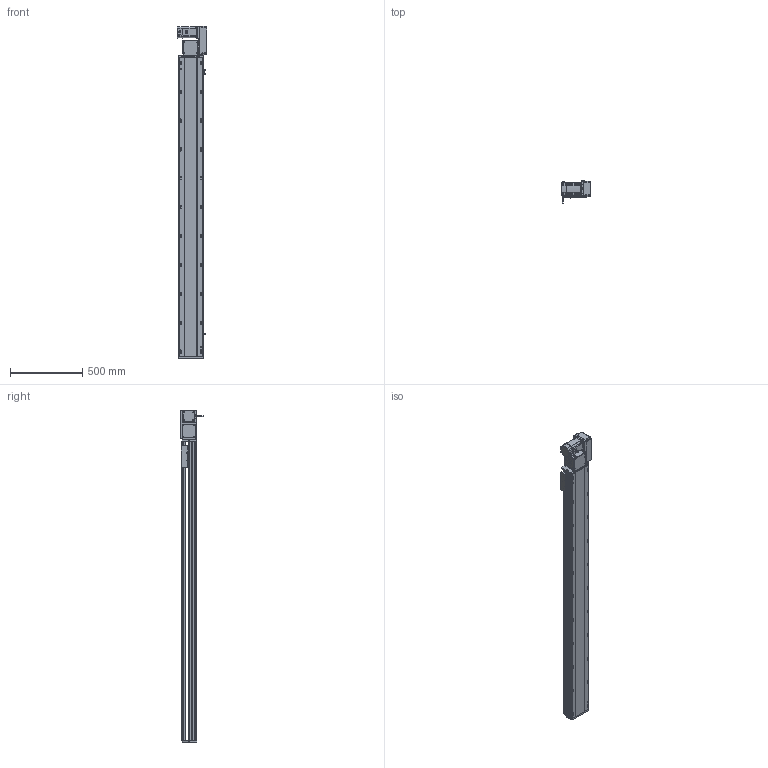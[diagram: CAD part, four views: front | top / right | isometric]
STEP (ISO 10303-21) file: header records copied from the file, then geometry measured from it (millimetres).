
FILE_DESCRIPTION (( 'STEP AP214' ), '1' );
FILE_NAME ('RTB17S-XX-1800-R-M75-C4.STEP', '2025-12-12T01:40:00', ( '' ), ( '' ), 'SwSTEP 2.0', 'SolidWorks 2018', '' );
FILE_SCHEMA (( 'AUTOMOTIVE_DESIGN' ));
Length unit declared in the file: millimetre
Products named in the file (15): RTB17S-L-007奻裔^RTB17S-XX-XX-R-M75-C4; EE672^RTB17S-XX-XX-R-M75-C4; 750W萇儂^RTB17S-XX-XX-R-M75-C4; RTB17S-賑釱^RTB17S-XX-XX-R-M75-C4; RTB17-R-011菁釱^RTB17S-XX-XX-R-M75-C4; RTH13-BL-012覜茼え俋离^RTB17S-賑釱_RTB17S-XX-XX-R-M75-C4; RTB17S-XX-1800-R-M75-C4; RTB17S-L-014-T20-P75--々湍釱^RTB17S-R-々湍釱蚾饜-750W_RTB17S-XX-XX-R-M75-C4; RTB22S-GY-018P^RTB17S-R-々湍釱蚾饜-750W_RTB17S-XX-XX-R-M75-C4; RTB22S-GY-008-M75--萇儂啣^RTB17S-R-々湍釱蚾饜-750W_RTB17S-XX-XX-R-M75-C4; RTB22S-GY-005P^RTB17S-R-々湍釱蚾饜-750W_RTB17S-XX-XX-R-M75-C4; RTB17S-L-004-賑釱^RTB17S-賑釱_RTB17S-XX-XX-R-M75-C4; RTB17S-R-々湍釱蚾饜-750W^RTB17S-XX-XX-R-M75-C4; RTB17S-L-001-耜醱啣^RTB17S-XX-XX-R-M75-C4; RTB22S-GY-017P^RTB17S-R-々湍釱蚾饜-750W_RTB17S-XX-XX-R-M75-C4
Assembly tree (17 placements, depth 3):
  RTB17S-XX-1800-R-M75-C4
    RTB17-R-011菁釱^RTB17S-XX-XX-R-M75-C4
    EE672^RTB17S-XX-XX-R-M75-C4  x3
    RTB17S-L-001-耜醱啣^RTB17S-XX-XX-R-M75-C4
    RTB17S-賑釱^RTB17S-XX-XX-R-M75-C4
      RTB17S-L-004-賑釱^RTB17S-賑釱_RTB17S-XX-XX-R-M75-C4
      RTH13-BL-012覜茼え俋离^RTB17S-賑釱_RTB17S-XX-XX-R-M75-C4
    RTB17S-L-007奻裔^RTB17S-XX-XX-R-M75-C4
    750W萇儂^RTB17S-XX-XX-R-M75-C4
    RTB17S-R-々湍釱蚾饜-750W^RTB17S-XX-XX-R-M75-C4
      RTB17S-L-014-T20-P75--々湍釱^RTB17S-R-々湍釱蚾饜-750W_RTB17S-XX-XX-R-M75-C4
      RTB22S-GY-005P^RTB17S-R-々湍釱蚾饜-750W_RTB17S-XX-XX-R-M75-C4
      RTB22S-GY-017P^RTB17S-R-々湍釱蚾饜-750W_RTB17S-XX-XX-R-M75-C4  x2
      RTB22S-GY-008-M75--萇儂啣^RTB17S-R-々湍釱蚾饜-750W_RTB17S-XX-XX-R-M75-C4
      RTB22S-GY-018P^RTB17S-R-々湍釱蚾饜-750W_RTB17S-XX-XX-R-M75-C4
Bounding box: 207.4 x 152.7 x 2299 mm (x, y, z)
Volume: 17204687.3 mm3; surface area: 3052683.1 mm2
Topology: 17 solids, 17 shells, 2153 faces, 5998 edges, 3878 vertices
Faces by surface type: plane 978, cylinder 759, bspline 294, cone 110, sphere 8, torus 4
Entity records: 61174 total; most frequent: CARTESIAN_POINT 18062, ORIENTED_EDGE 8840, DIRECTION 8222, EDGE_CURVE 4420, AXIS2_PLACEMENT_3D 2898, VERTEX_POINT 2882, VECTOR 2426, LINE 2426
